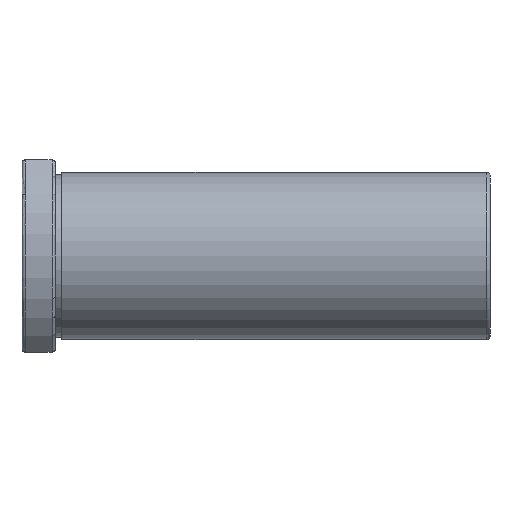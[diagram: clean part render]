
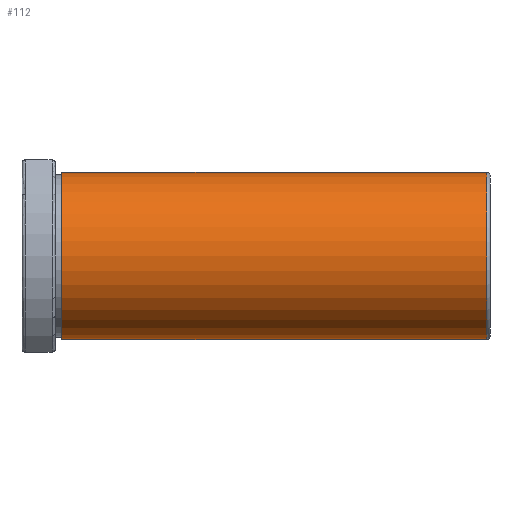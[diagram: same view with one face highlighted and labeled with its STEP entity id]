
A CAD part, front view. The second image highlights one B-rep face of the part: STEP entity #112.
In plain terms, the highlighted cylindrical face has radius 20 mm (diameter 40 mm), a full revolution.
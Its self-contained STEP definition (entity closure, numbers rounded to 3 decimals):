
#112 = ADVANCED_FACE( '', ( #248, #249 ), #250, .T. );
#248 = FACE_OUTER_BOUND( '', #391, .T. );
#249 = FACE_OUTER_BOUND( '', #392, .T. );
#250 = CYLINDRICAL_SURFACE( '', #393, 20. );
#391 = EDGE_LOOP( '', ( #641 ) );
#392 = EDGE_LOOP( '', ( #642 ) );
#393 = AXIS2_PLACEMENT_3D( '', #643, #644, #645 );
#641 = ORIENTED_EDGE( '', *, *, #797, .F. );
#642 = ORIENTED_EDGE( '', *, *, #717, .T. );
#643 = CARTESIAN_POINT( '', ( 33.4, 0., 0. ) );
#644 = DIRECTION( '', ( -1., 0., 0. ) );
#645 = DIRECTION( '', ( 0., 1., 0. ) );
#717 = EDGE_CURVE( '', #828, #828, #829, .F. );
#797 = EDGE_CURVE( '', #950, #950, #951, .F. );
#828 = VERTEX_POINT( '', #987 );
#829 = CIRCLE( '', #988, 20. );
#950 = VERTEX_POINT( '', #1182 );
#951 = CIRCLE( '', #1183, 20. );
#987 = CARTESIAN_POINT( '', ( 111.2, 20., 0. ) );
#988 = AXIS2_PLACEMENT_3D( '', #1214, #1215, #1216 );
#1182 = CARTESIAN_POINT( '', ( 9.5, 0., -20. ) );
#1183 = AXIS2_PLACEMENT_3D( '', #1333, #1334, #1335 );
#1214 = CARTESIAN_POINT( '', ( 111.2, 0., 0. ) );
#1215 = DIRECTION( '', ( 1., 0., 0. ) );
#1216 = DIRECTION( '', ( 0., 0., -1. ) );
#1333 = CARTESIAN_POINT( '', ( 9.5, 0., 0. ) );
#1334 = DIRECTION( '', ( 1., 0., 0. ) );
#1335 = DIRECTION( '', ( 0., 0., -1. ) );
